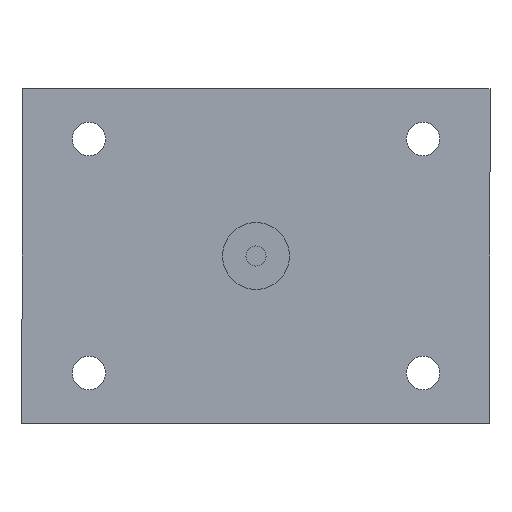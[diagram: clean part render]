
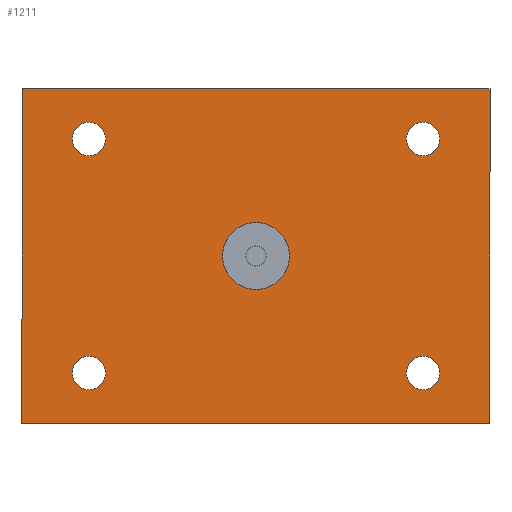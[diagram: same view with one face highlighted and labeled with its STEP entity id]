
A CAD part, front view. The second image highlights one B-rep face of the part: STEP entity #1211.
In plain terms, the highlighted planar face has unit normal (0, -1, 0).
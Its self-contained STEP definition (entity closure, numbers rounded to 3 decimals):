
#2 = VERTEX_POINT ( 'NONE', #1875 ) ;
#4 = CARTESIAN_POINT ( 'NONE',  ( -35., 0., -25. ) ) ;
#5 = DIRECTION ( 'NONE',  ( 0., 1., 0. ) ) ;
#31 = DIRECTION ( 'NONE',  ( 0., 0., 1. ) ) ;
#36 = VERTEX_POINT ( 'NONE', #1526 ) ;
#41 = EDGE_LOOP ( 'NONE', ( #1770, #368 ) ) ;
#42 = DIRECTION ( 'NONE',  ( 0., 0., 1. ) ) ;
#58 = FACE_OUTER_BOUND ( 'NONE', #315, .T. ) ;
#74 = VECTOR ( 'NONE', #1781, 1000. ) ;
#105 = EDGE_LOOP ( 'NONE', ( #1316, #832 ) ) ;
#124 = ORIENTED_EDGE ( 'NONE', *, *, #1164, .T. ) ;
#129 = AXIS2_PLACEMENT_3D ( 'NONE', #1333, #1329, #669 ) ;
#187 = CARTESIAN_POINT ( 'NONE',  ( -25., 0., -17.5 ) ) ;
#249 = VERTEX_POINT ( 'NONE', #1755 ) ;
#270 = CARTESIAN_POINT ( 'NONE',  ( 0., 0., 0. ) ) ;
#272 = VERTEX_POINT ( 'NONE', #326 ) ;
#285 = DIRECTION ( 'NONE',  ( 0., 1., 0. ) ) ;
#315 = EDGE_LOOP ( 'NONE', ( #1599, #374, #1848, #867 ) ) ;
#323 = EDGE_CURVE ( 'NONE', #1024, #1575, #384, .T. ) ;
#326 = CARTESIAN_POINT ( 'NONE',  ( 25., 0., 15. ) ) ;
#333 = VERTEX_POINT ( 'NONE', #506 ) ;
#346 = DIRECTION ( 'NONE',  ( 0., 1., 0. ) ) ;
#368 = ORIENTED_EDGE ( 'NONE', *, *, #323, .T. ) ;
#374 = ORIENTED_EDGE ( 'NONE', *, *, #688, .F. ) ;
#377 = CIRCLE ( 'NONE', #912, 2.5 ) ;
#384 = CIRCLE ( 'NONE', #129, 2.5 ) ;
#402 = AXIS2_PLACEMENT_3D ( 'NONE', #187, #1788, #42 ) ;
#403 = CIRCLE ( 'NONE', #2002, 5. ) ;
#404 = DIRECTION ( 'NONE',  ( 0., -1., 0. ) ) ;
#436 = DIRECTION ( 'NONE',  ( 0., 0., 1. ) ) ;
#455 = DIRECTION ( 'NONE',  ( 0., 1., 0. ) ) ;
#459 = CARTESIAN_POINT ( 'NONE',  ( -35., 0., 25. ) ) ;
#472 = FACE_BOUND ( 'NONE', #610, .T. ) ;
#473 = DIRECTION ( 'NONE',  ( 0., 0., 1. ) ) ;
#481 = VECTOR ( 'NONE', #784, 1000. ) ;
#490 = CARTESIAN_POINT ( 'NONE',  ( -25., 0., 17.5 ) ) ;
#495 = CARTESIAN_POINT ( 'NONE',  ( -25., 0., 15. ) ) ;
#506 = CARTESIAN_POINT ( 'NONE',  ( -25., 0., 20. ) ) ;
#532 = DIRECTION ( 'NONE',  ( 0., 0., 1. ) ) ;
#586 = CARTESIAN_POINT ( 'NONE',  ( 35., 0., -25. ) ) ;
#588 = DIRECTION ( 'NONE',  ( 0., 1., 0. ) ) ;
#591 = EDGE_CURVE ( 'NONE', #1398, #1063, #1218, .T. ) ;
#610 = EDGE_LOOP ( 'NONE', ( #959, #783 ) ) ;
#614 = AXIS2_PLACEMENT_3D ( 'NONE', #1849, #588, #721 ) ;
#638 = ORIENTED_EDGE ( 'NONE', *, *, #1309, .T. ) ;
#669 = DIRECTION ( 'NONE',  ( 0., 0., 1. ) ) ;
#677 = CARTESIAN_POINT ( 'NONE',  ( 35., 0., -25. ) ) ;
#688 = EDGE_CURVE ( 'NONE', #1278, #36, #857, .T. ) ;
#721 = DIRECTION ( 'NONE',  ( 0., 0., 1. ) ) ;
#726 = CIRCLE ( 'NONE', #402, 2.5 ) ;
#731 = DIRECTION ( 'NONE',  ( 0., 1., 0. ) ) ;
#747 = VECTOR ( 'NONE', #1071, 1000. ) ;
#765 = VERTEX_POINT ( 'NONE', #1128 ) ;
#780 = CIRCLE ( 'NONE', #1331, 2.5 ) ;
#783 = ORIENTED_EDGE ( 'NONE', *, *, #591, .T. ) ;
#784 = DIRECTION ( 'NONE',  ( 1., 0., 0. ) ) ;
#832 = ORIENTED_EDGE ( 'NONE', *, *, #1635, .F. ) ;
#835 = EDGE_CURVE ( 'NONE', #249, #272, #780, .T. ) ;
#848 = CIRCLE ( 'NONE', #1339, 2.5 ) ;
#857 = LINE ( 'NONE', #459, #481 ) ;
#867 = ORIENTED_EDGE ( 'NONE', *, *, #1388, .F. ) ;
#884 = DIRECTION ( 'NONE',  ( 0., 0., 1. ) ) ;
#887 = EDGE_CURVE ( 'NONE', #1575, #1024, #726, .T. ) ;
#911 = ORIENTED_EDGE ( 'NONE', *, *, #1591, .T. ) ;
#912 = AXIS2_PLACEMENT_3D ( 'NONE', #1406, #455, #436 ) ;
#959 = ORIENTED_EDGE ( 'NONE', *, *, #1009, .T. ) ;
#974 = DIRECTION ( 'NONE',  ( 0., -1., 0. ) ) ;
#1002 = FACE_BOUND ( 'NONE', #1127, .T. ) ;
#1009 = EDGE_CURVE ( 'NONE', #1063, #1398, #1596, .T. ) ;
#1024 = VERTEX_POINT ( 'NONE', #1047 ) ;
#1041 = LINE ( 'NONE', #4, #1838 ) ;
#1047 = CARTESIAN_POINT ( 'NONE',  ( -25., 0., -20. ) ) ;
#1063 = VERTEX_POINT ( 'NONE', #1702 ) ;
#1071 = DIRECTION ( 'NONE',  ( -1., 0., 0. ) ) ;
#1102 = DIRECTION ( 'NONE',  ( 0., 0., -1. ) ) ;
#1117 = CARTESIAN_POINT ( 'NONE',  ( -35., 0., 25. ) ) ;
#1127 = EDGE_LOOP ( 'NONE', ( #124, #911 ) ) ;
#1128 = CARTESIAN_POINT ( 'NONE',  ( -35., 0., -25. ) ) ;
#1133 = EDGE_CURVE ( 'NONE', #1351, #2, #403, .T. ) ;
#1150 = DIRECTION ( 'NONE',  ( 0., 0., -1. ) ) ;
#1164 = EDGE_CURVE ( 'NONE', #333, #1748, #377, .T. ) ;
#1202 = AXIS2_PLACEMENT_3D ( 'NONE', #270, #285, #1401 ) ;
#1203 = EDGE_LOOP ( 'NONE', ( #2016, #638 ) ) ;
#1211 = ADVANCED_FACE ( 'NONE', ( #1753, #1321, #472, #1002, #1369, #58 ), #1566, .F. ) ;
#1218 = CIRCLE ( 'NONE', #1319, 2.5 ) ;
#1231 = LINE ( 'NONE', #1519, #747 ) ;
#1274 = EDGE_CURVE ( 'NONE', #765, #1278, #1041, .T. ) ;
#1278 = VERTEX_POINT ( 'NONE', #1117 ) ;
#1309 = EDGE_CURVE ( 'NONE', #272, #249, #848, .T. ) ;
#1311 = CARTESIAN_POINT ( 'NONE',  ( 25., 0., -17.5 ) ) ;
#1316 = ORIENTED_EDGE ( 'NONE', *, *, #1133, .F. ) ;
#1319 = AXIS2_PLACEMENT_3D ( 'NONE', #1311, #1338, #532 ) ;
#1321 = FACE_BOUND ( 'NONE', #41, .T. ) ;
#1329 = DIRECTION ( 'NONE',  ( 0., 1., 0. ) ) ;
#1331 = AXIS2_PLACEMENT_3D ( 'NONE', #1605, #346, #1442 ) ;
#1333 = CARTESIAN_POINT ( 'NONE',  ( -25., 0., -17.5 ) ) ;
#1338 = DIRECTION ( 'NONE',  ( 0., 1., 0. ) ) ;
#1339 = AXIS2_PLACEMENT_3D ( 'NONE', #1529, #731, #884 ) ;
#1351 = VERTEX_POINT ( 'NONE', #2000 ) ;
#1355 = CARTESIAN_POINT ( 'NONE',  ( 0., 0., 0. ) ) ;
#1369 = FACE_BOUND ( 'NONE', #1203, .T. ) ;
#1388 = EDGE_CURVE ( 'NONE', #2029, #765, #1231, .T. ) ;
#1398 = VERTEX_POINT ( 'NONE', #1690 ) ;
#1401 = DIRECTION ( 'NONE',  ( 0., 0., 1. ) ) ;
#1406 = CARTESIAN_POINT ( 'NONE',  ( -25., 0., 17.5 ) ) ;
#1442 = DIRECTION ( 'NONE',  ( 0., 0., 1. ) ) ;
#1488 = LINE ( 'NONE', #677, #74 ) ;
#1519 = CARTESIAN_POINT ( 'NONE',  ( -35., 0., -25. ) ) ;
#1526 = CARTESIAN_POINT ( 'NONE',  ( 35., 0., 25. ) ) ;
#1529 = CARTESIAN_POINT ( 'NONE',  ( 25., 0., 17.5 ) ) ;
#1566 = PLANE ( 'NONE',  #1202 ) ;
#1575 = VERTEX_POINT ( 'NONE', #1911 ) ;
#1591 = EDGE_CURVE ( 'NONE', #1748, #333, #1862, .T. ) ;
#1594 = AXIS2_PLACEMENT_3D ( 'NONE', #1924, #974, #1150 ) ;
#1596 = CIRCLE ( 'NONE', #614, 2.5 ) ;
#1599 = ORIENTED_EDGE ( 'NONE', *, *, #1775, .F. ) ;
#1605 = CARTESIAN_POINT ( 'NONE',  ( 25., 0., 17.5 ) ) ;
#1635 = EDGE_CURVE ( 'NONE', #2, #1351, #1796, .T. ) ;
#1690 = CARTESIAN_POINT ( 'NONE',  ( 25., 0., -20. ) ) ;
#1702 = CARTESIAN_POINT ( 'NONE',  ( 25., 0., -15. ) ) ;
#1748 = VERTEX_POINT ( 'NONE', #495 ) ;
#1753 = FACE_BOUND ( 'NONE', #105, .T. ) ;
#1755 = CARTESIAN_POINT ( 'NONE',  ( 25., 0., 20. ) ) ;
#1770 = ORIENTED_EDGE ( 'NONE', *, *, #887, .T. ) ;
#1775 = EDGE_CURVE ( 'NONE', #36, #2029, #1488, .T. ) ;
#1781 = DIRECTION ( 'NONE',  ( 0., 0., -1. ) ) ;
#1788 = DIRECTION ( 'NONE',  ( 0., 1., 0. ) ) ;
#1796 = CIRCLE ( 'NONE', #1594, 5. ) ;
#1838 = VECTOR ( 'NONE', #473, 1000. ) ;
#1848 = ORIENTED_EDGE ( 'NONE', *, *, #1274, .F. ) ;
#1849 = CARTESIAN_POINT ( 'NONE',  ( 25., 0., -17.5 ) ) ;
#1862 = CIRCLE ( 'NONE', #1938, 2.5 ) ;
#1875 = CARTESIAN_POINT ( 'NONE',  ( 0., 0., 5. ) ) ;
#1911 = CARTESIAN_POINT ( 'NONE',  ( -25., 0., -15. ) ) ;
#1924 = CARTESIAN_POINT ( 'NONE',  ( 0., 0., 0. ) ) ;
#1938 = AXIS2_PLACEMENT_3D ( 'NONE', #490, #5, #31 ) ;
#2000 = CARTESIAN_POINT ( 'NONE',  ( 0., 0., -5. ) ) ;
#2002 = AXIS2_PLACEMENT_3D ( 'NONE', #1355, #404, #1102 ) ;
#2016 = ORIENTED_EDGE ( 'NONE', *, *, #835, .T. ) ;
#2029 = VERTEX_POINT ( 'NONE', #586 ) ;
